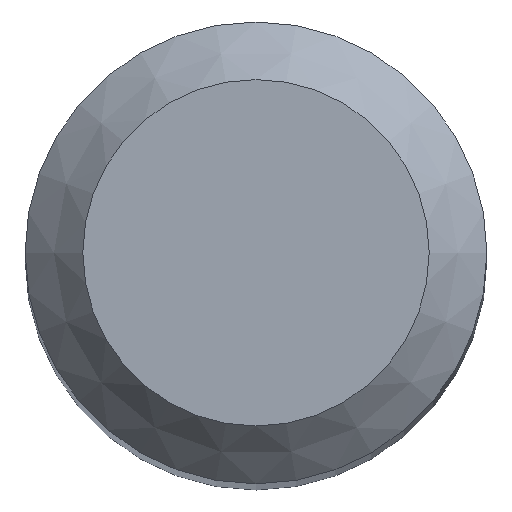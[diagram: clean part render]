
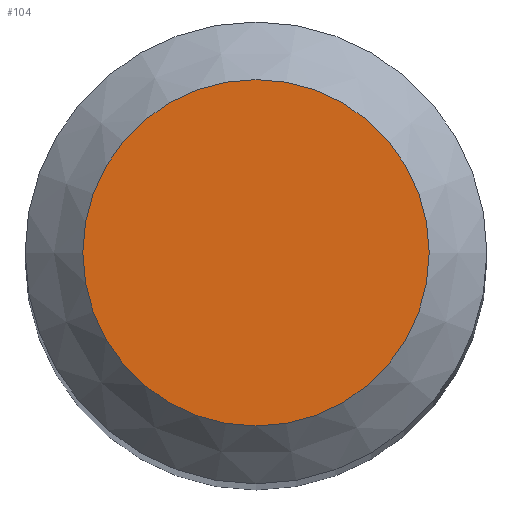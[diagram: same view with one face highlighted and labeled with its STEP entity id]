
A CAD part, top view. The second image highlights one B-rep face of the part: STEP entity #104.
In plain terms, the highlighted planar face has unit normal (0, 0, 1).
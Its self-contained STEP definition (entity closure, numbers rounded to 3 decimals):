
#88=CARTESIAN_POINT('',(1.5,0.0,55.0));
#89=DIRECTION('',(0.0,0.0,1.0));
#90=DIRECTION('',(1.0,0.0,0.0));
#91=AXIS2_PLACEMENT_3D('',#88,#89,#90);
#92=PLANE('',#91);
#93=CARTESIAN_POINT('',(-1.5,0.0,55.));
#94=VERTEX_POINT('',#93);
#95=CARTESIAN_POINT('',(0.0,0.0,55.));
#96=DIRECTION('',(0.0,0.0,-1.0));
#97=DIRECTION('',(-1.0,0.0,0.0));
#98=AXIS2_PLACEMENT_3D('',#95,#96,#97);
#99=CIRCLE('',#98,1.5);
#100=EDGE_CURVE('',#94,#94,#99,.T.);
#101=ORIENTED_EDGE('',*,*,#100,.F.);
#102=EDGE_LOOP('',(#101));
#103=FACE_OUTER_BOUND('',#102,.T.);
#104=ADVANCED_FACE('',(#103),#92,.T.);
